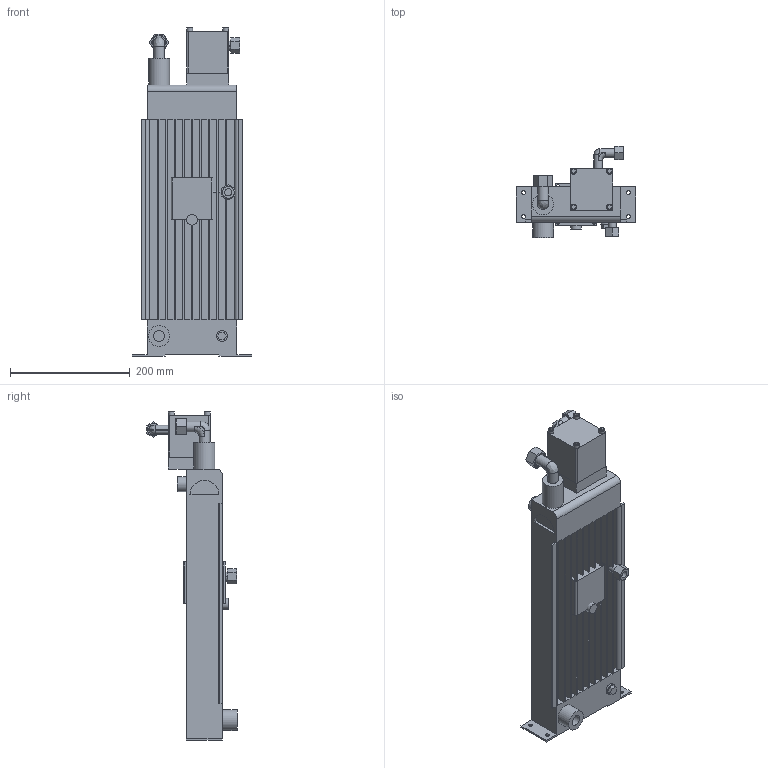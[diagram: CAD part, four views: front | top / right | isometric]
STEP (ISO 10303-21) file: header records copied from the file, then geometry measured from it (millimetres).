
FILE_DESCRIPTION( ( 'Niete' ), '1' );
FILE_NAME( 'C:/Programme/Solid Edge V15/Training/Coolunit.stp', 'Unknown', ( 'Tack' ), ( 'Unknown' ), 'XStep 1.0', 'SolidEdge', ' ' );
FILE_SCHEMA( ( 'automotive_design' ) );
Length unit declared in the file: millimetre
Products named in the file (12): combine; Assem1; Connector; Fit15mm; Ftnt15MM; Radiator; bolt_6X_60; fit18mm; ftnt18mm
Bounding box: 200 x 151.5 x 549 mm (x, y, z)
Volume: 7637942.9 mm3; surface area: 1003090.4 mm2
Topology: 23 solids, 23 shells, 671 faces, 1538 edges, 1013 vertices
Faces by surface type: plane 494, cylinder 135, cone 18, torus 16, bspline 8
Full cylindrical faces by diameter (mm): 4.773 x8, 6 x28, 6.35 x8, 7 x8, 10 x8, 12 x3, 14.5 x3, 15 x5, 18 x6, 18.376 x6, 23 x2, 25 x2, 35 x4
Entity records: 11235 total; most frequent: CARTESIAN_POINT 1666, DIRECTION 1405, ORIENTED_EDGE 1286, EDGE_CURVE 643, LINE 475, VECTOR 475, AXIS2_PLACEMENT_3D 465, VERTEX_POINT 454
